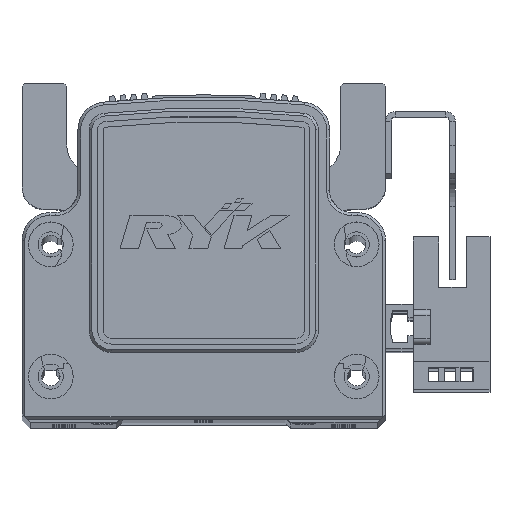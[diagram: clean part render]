
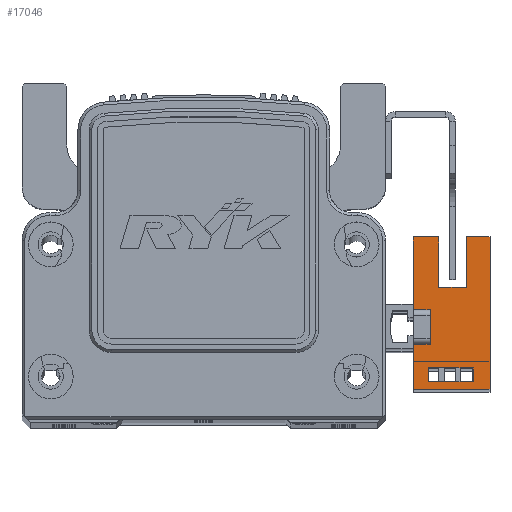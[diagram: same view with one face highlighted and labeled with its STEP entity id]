
A CAD part, top view. The second image highlights one B-rep face of the part: STEP entity #17046.
In plain terms, the highlighted planar face has unit normal (0, 0, 1) as drawn and (1, 0, 0) by its records, which use the part's own axes.
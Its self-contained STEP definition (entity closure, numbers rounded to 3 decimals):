
#3225 = ORIENTED_EDGE ( 'NONE', *, *, #28003, .F. ) ;
#3232 = ORIENTED_EDGE ( 'NONE', *, *, #28071, .T. ) ;
#3233 = ORIENTED_EDGE ( 'NONE', *, *, #28073, .T. ) ;
#3234 = ORIENTED_EDGE ( 'NONE', *, *, #28075, .T. ) ;
#3240 = ORIENTED_EDGE ( 'NONE', *, *, #28068, .F. ) ;
#3242 = ORIENTED_EDGE ( 'NONE', *, *, #28063, .F. ) ;
#3245 = ORIENTED_EDGE ( 'NONE', *, *, #28114, .F. ) ;
#3248 = ORIENTED_EDGE ( 'NONE', *, *, #28101, .F. ) ;
#3251 = ORIENTED_EDGE ( 'NONE', *, *, #28081, .F. ) ;
#3265 = ORIENTED_EDGE ( 'NONE', *, *, #28078, .T. ) ;
#3268 = ORIENTED_EDGE ( 'NONE', *, *, #28097, .T. ) ;
#3272 = ORIENTED_EDGE ( 'NONE', *, *, #28103, .F. ) ;
#3274 = ORIENTED_EDGE ( 'NONE', *, *, #27998, .T. ) ;
#3275 = ORIENTED_EDGE ( 'NONE', *, *, #28013, .F. ) ;
#3286 = ORIENTED_EDGE ( 'NONE', *, *, #28058, .F. ) ;
#3288 = ORIENTED_EDGE ( 'NONE', *, *, #28104, .F. ) ;
#3395 = EDGE_LOOP ( 'NONE', ( #3234, #3268, #3232, #3233, #3225, #3245, #3248, #3272, #3275, #3240, #3265, #3274 ) ) ;
#3427 = EDGE_LOOP ( 'NONE', ( #3251, #3242, #3286, #3288 ) ) ;
#4569 = VECTOR ( 'NONE', #35174, 1000. ) ;
#4570 = LINE ( 'NONE', #35149, #4571 ) ;
#4571 = VECTOR ( 'NONE', #35180, 1000. ) ;
#4578 = LINE ( 'NONE', #35160, #4618 ) ;
#4583 = VECTOR ( 'NONE', #35147, 1000. ) ;
#4588 = LINE ( 'NONE', #35189, #4583 ) ;
#4592 = VECTOR ( 'NONE', #35153, 1000. ) ;
#4598 = LINE ( 'NONE', #35200, #4620 ) ;
#4599 = VECTOR ( 'NONE', #35186, 1000. ) ;
#4603 = LINE ( 'NONE', #35157, #4610 ) ;
#4605 = LINE ( 'NONE', #35182, #4592 ) ;
#4610 = VECTOR ( 'NONE', #35140, 1000. ) ;
#4611 = LINE ( 'NONE', #35196, #4599 ) ;
#4618 = VECTOR ( 'NONE', #35145, 1000. ) ;
#4620 = VECTOR ( 'NONE', #35243, 1000. ) ;
#5338 = VECTOR ( 'NONE', #35294, 1000. ) ;
#5345 = LINE ( 'NONE', #35304, #5338 ) ;
#5521 = LINE ( 'NONE', #35325, #5552 ) ;
#5552 = VECTOR ( 'NONE', #35298, 1000. ) ;
#5625 = LINE ( 'NONE', #35286, #5670 ) ;
#5649 = VECTOR ( 'NONE', #35018, 1000. ) ;
#5657 = VECTOR ( 'NONE', #35861, 1000. ) ;
#5658 = VECTOR ( 'NONE', #35028, 1000. ) ;
#5670 = VECTOR ( 'NONE', #35317, 1000. ) ;
#5684 = LINE ( 'NONE', #35855, #5657 ) ;
#5692 = LINE ( 'NONE', #35047, #5649 ) ;
#5699 = LINE ( 'NONE', #35039, #5658 ) ;
#5713 = LINE ( 'NONE', #35102, #5718 ) ;
#5718 = VECTOR ( 'NONE', #35130, 1000. ) ;
#5721 = LINE ( 'NONE', #35192, #4569 ) ;
#10012 = FACE_OUTER_BOUND ( 'NONE', #3395, .T. ) ;
#10014 = FACE_BOUND ( 'NONE', #3427, .T. ) ;
#10811 = VERTEX_POINT ( 'NONE', #38219 ) ;
#10832 = VERTEX_POINT ( 'NONE', #38094 ) ;
#10834 = VERTEX_POINT ( 'NONE', #38092 ) ;
#10842 = VERTEX_POINT ( 'NONE', #38091 ) ;
#10843 = VERTEX_POINT ( 'NONE', #38061 ) ;
#10852 = VERTEX_POINT ( 'NONE', #38054 ) ;
#10859 = VERTEX_POINT ( 'NONE', #38073 ) ;
#10871 = VERTEX_POINT ( 'NONE', #38089 ) ;
#10872 = VERTEX_POINT ( 'NONE', #38101 ) ;
#10892 = VERTEX_POINT ( 'NONE', #38119 ) ;
#10905 = VERTEX_POINT ( 'NONE', #39476 ) ;
#10913 = VERTEX_POINT ( 'NONE', #39465 ) ;
#10921 = VERTEX_POINT ( 'NONE', #39480 ) ;
#10925 = VERTEX_POINT ( 'NONE', #39509 ) ;
#10928 = VERTEX_POINT ( 'NONE', #39497 ) ;
#10929 = VERTEX_POINT ( 'NONE', #39510 ) ;
#17046 = ADVANCED_FACE ( 'NONE', ( #10012, #10014 ), #34477, .T. ) ;
#19092 = VECTOR ( 'NONE', #35295, 1000. ) ;
#19108 = LINE ( 'NONE', #35321, #19092 ) ;
#27998 = EDGE_CURVE ( 'NONE', #10842, #10832, #5684, .T. ) ;
#28003 = EDGE_CURVE ( 'NONE', #10811, #10859, #5692, .T. ) ;
#28013 = EDGE_CURVE ( 'NONE', #10852, #10834, #5699, .T. ) ;
#28058 = EDGE_CURVE ( 'NONE', #10892, #10925, #5713, .T. ) ;
#28063 = EDGE_CURVE ( 'NONE', #10925, #10843, #5721, .T. ) ;
#28068 = EDGE_CURVE ( 'NONE', #10928, #10852, #4603, .T. ) ;
#28071 = EDGE_CURVE ( 'NONE', #10905, #10871, #4570, .T. ) ;
#28073 = EDGE_CURVE ( 'NONE', #10871, #10859, #4605, .T. ) ;
#28075 = EDGE_CURVE ( 'NONE', #10832, #10921, #4611, .T. ) ;
#28078 = EDGE_CURVE ( 'NONE', #10928, #10842, #4578, .T. ) ;
#28081 = EDGE_CURVE ( 'NONE', #10843, #10872, #4588, .T. ) ;
#28097 = EDGE_CURVE ( 'NONE', #10921, #10905, #4598, .T. ) ;
#28101 = EDGE_CURVE ( 'NONE', #10929, #10913, #5345, .T. ) ;
#28103 = EDGE_CURVE ( 'NONE', #10834, #10929, #5521, .T. ) ;
#28104 = EDGE_CURVE ( 'NONE', #10872, #10892, #5625, .T. ) ;
#28114 = EDGE_CURVE ( 'NONE', #10913, #10811, #19108, .T. ) ;
#30931 = AXIS2_PLACEMENT_3D ( 'NONE', #34433, #34446, #34447 ) ;
#34433 = CARTESIAN_POINT ( 'NONE',  ( 3.2, 16.1, -10.7 ) ) ;
#34446 = DIRECTION ( 'NONE',  ( 1., 0., 0. ) ) ;
#34447 = DIRECTION ( 'NONE',  ( 0., 1., 0. ) ) ;
#34477 = PLANE ( 'NONE',  #30931 ) ;
#35018 = DIRECTION ( 'NONE',  ( 0., 1., 0. ) ) ;
#35028 = DIRECTION ( 'NONE',  ( 0., 1., 0. ) ) ;
#35039 = CARTESIAN_POINT ( 'NONE',  ( 3.2, 16.1, 3. ) ) ;
#35047 = CARTESIAN_POINT ( 'NONE',  ( 3.2, 16.1, 3. ) ) ;
#35102 = CARTESIAN_POINT ( 'NONE',  ( 3.2, 16.1, -7.7 ) ) ;
#35130 = DIRECTION ( 'NONE',  ( 0., 1., 0. ) ) ;
#35140 = DIRECTION ( 'NONE',  ( 0., 0., 1. ) ) ;
#35145 = DIRECTION ( 'NONE',  ( 0., 1., 0. ) ) ;
#35147 = DIRECTION ( 'NONE',  ( 0., -1., 0. ) ) ;
#35149 = CARTESIAN_POINT ( 'NONE',  ( 3.2, 25.1, -1.5 ) ) ;
#35153 = DIRECTION ( 'NONE',  ( 0., 0., 1. ) ) ;
#35157 = CARTESIAN_POINT ( 'NONE',  ( 3.2, -11.1, 3. ) ) ;
#35160 = CARTESIAN_POINT ( 'NONE',  ( 3.2, 16.1, -10.7 ) ) ;
#35174 = DIRECTION ( 'NONE',  ( 0., 0., 1. ) ) ;
#35180 = DIRECTION ( 'NONE',  ( 0., 1., 0. ) ) ;
#35182 = CARTESIAN_POINT ( 'NONE',  ( 3.2, 16.1, -10.7 ) ) ;
#35186 = DIRECTION ( 'NONE',  ( 0., -1., 0. ) ) ;
#35189 = CARTESIAN_POINT ( 'NONE',  ( 3.2, 16.1, 0.3 ) ) ;
#35192 = CARTESIAN_POINT ( 'NONE',  ( 3.2, -7.33, -10.7 ) ) ;
#35196 = CARTESIAN_POINT ( 'NONE',  ( 3.2, 25.1, -6.5 ) ) ;
#35200 = CARTESIAN_POINT ( 'NONE',  ( 3.2, 7.1, -6.5 ) ) ;
#35243 = DIRECTION ( 'NONE',  ( 0., 0., 1. ) ) ;
#35286 = CARTESIAN_POINT ( 'NONE',  ( 3.2, -9.83, -10.7 ) ) ;
#35294 = DIRECTION ( 'NONE',  ( 0., 1., 0. ) ) ;
#35295 = DIRECTION ( 'NONE',  ( 0., 0., 1. ) ) ;
#35298 = DIRECTION ( 'NONE',  ( 0., 0., -1. ) ) ;
#35304 = CARTESIAN_POINT ( 'NONE',  ( 3.2, 0., 0. ) ) ;
#35317 = DIRECTION ( 'NONE',  ( 0., 0., -1. ) ) ;
#35321 = CARTESIAN_POINT ( 'NONE',  ( 3.2, 3.1, 3. ) ) ;
#35325 = CARTESIAN_POINT ( 'NONE',  ( 3.2, -3.1, 3. ) ) ;
#35855 = CARTESIAN_POINT ( 'NONE',  ( 3.2, 16.1, -10.7 ) ) ;
#35861 = DIRECTION ( 'NONE',  ( 0., 0., 1. ) ) ;
#38054 = CARTESIAN_POINT ( 'NONE',  ( 3.2, -11.1, 3. ) ) ;
#38061 = CARTESIAN_POINT ( 'NONE',  ( 3.2, -7.33, 0.3 ) ) ;
#38073 = CARTESIAN_POINT ( 'NONE',  ( 3.2, 16.1, 3. ) ) ;
#38089 = CARTESIAN_POINT ( 'NONE',  ( 3.2, 16.1, -1.5 ) ) ;
#38091 = CARTESIAN_POINT ( 'NONE',  ( 3.2, 16.1, -10.7 ) ) ;
#38092 = CARTESIAN_POINT ( 'NONE',  ( 3.2, -3.1, 3. ) ) ;
#38094 = CARTESIAN_POINT ( 'NONE',  ( 3.2, 16.1, -6.5 ) ) ;
#38101 = CARTESIAN_POINT ( 'NONE',  ( 3.2, -9.83, 0.3 ) ) ;
#38119 = CARTESIAN_POINT ( 'NONE',  ( 3.2, -9.83, -7.7 ) ) ;
#38219 = CARTESIAN_POINT ( 'NONE',  ( 3.2, 3.1, 3. ) ) ;
#39465 = CARTESIAN_POINT ( 'NONE',  ( 3.2, 3.1, 0. ) ) ;
#39476 = CARTESIAN_POINT ( 'NONE',  ( 3.2, 7.1, -1.5 ) ) ;
#39480 = CARTESIAN_POINT ( 'NONE',  ( 3.2, 7.1, -6.5 ) ) ;
#39497 = CARTESIAN_POINT ( 'NONE',  ( 3.2, -11.1, -10.7 ) ) ;
#39509 = CARTESIAN_POINT ( 'NONE',  ( 3.2, -7.33, -7.7 ) ) ;
#39510 = CARTESIAN_POINT ( 'NONE',  ( 3.2, -3.1, 0. ) ) ;
